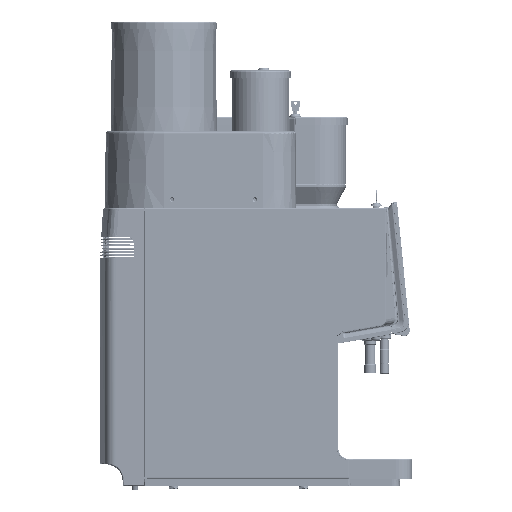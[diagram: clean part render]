
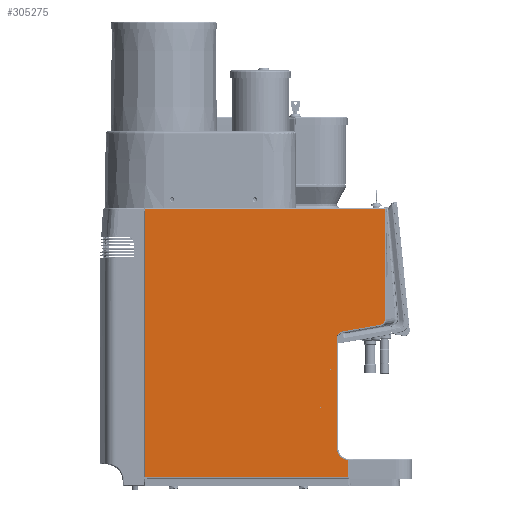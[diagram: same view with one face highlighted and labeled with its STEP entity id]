
A CAD part, left-side view. The second image highlights one B-rep face of the part: STEP entity #305275.
In plain terms, the highlighted planar face has unit normal (-1, 0, 0).
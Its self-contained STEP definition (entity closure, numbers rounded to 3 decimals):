
#22349=CIRCLE('',#341305,22.2);
#22351=CIRCLE('',#341309,12.1);
#22353=CIRCLE('',#341313,9.9);
#40462=ORIENTED_EDGE('',*,*,#136101,.F.);
#40463=ORIENTED_EDGE('',*,*,#136098,.T.);
#40464=ORIENTED_EDGE('',*,*,#136064,.T.);
#40465=ORIENTED_EDGE('',*,*,#136069,.T.);
#40466=ORIENTED_EDGE('',*,*,#136070,.T.);
#40467=ORIENTED_EDGE('',*,*,#136073,.T.);
#40468=ORIENTED_EDGE('',*,*,#136076,.T.);
#40469=ORIENTED_EDGE('',*,*,#136079,.T.);
#40470=ORIENTED_EDGE('',*,*,#136082,.T.);
#40471=ORIENTED_EDGE('',*,*,#136088,.T.);
#40472=ORIENTED_EDGE('',*,*,#136062,.T.);
#40473=ORIENTED_EDGE('',*,*,#136093,.F.);
#136062=EDGE_CURVE('',#183989,#183988,#213889,.T.);
#136064=EDGE_CURVE('',#183973,#183990,#213890,.T.);
#136069=EDGE_CURVE('',#183990,#183993,#213893,.T.);
#136070=EDGE_CURVE('',#183993,#183994,#22349,.T.);
#136073=EDGE_CURVE('',#183994,#183996,#213895,.T.);
#136076=EDGE_CURVE('',#183996,#183998,#22351,.T.);
#136079=EDGE_CURVE('',#183998,#184000,#213899,.T.);
#136082=EDGE_CURVE('',#184000,#184002,#22353,.T.);
#136088=EDGE_CURVE('',#184002,#183989,#213906,.T.);
#136093=EDGE_CURVE('',#183967,#183988,#213909,.T.);
#136098=EDGE_CURVE('',#184009,#183973,#213913,.T.);
#136101=EDGE_CURVE('',#184009,#183967,#213915,.T.);
#183967=VERTEX_POINT('',#454936);
#183973=VERTEX_POINT('',#454956);
#183988=VERTEX_POINT('',#455005);
#183989=VERTEX_POINT('',#455007);
#183990=VERTEX_POINT('',#455011);
#183993=VERTEX_POINT('',#455019);
#183994=VERTEX_POINT('',#455023);
#183996=VERTEX_POINT('',#455029);
#183998=VERTEX_POINT('',#455035);
#184000=VERTEX_POINT('',#455041);
#184002=VERTEX_POINT('',#455047);
#184009=VERTEX_POINT('',#455075);
#213889=LINE('',#455006,#235116);
#213890=LINE('',#455010,#235117);
#213893=LINE('',#455020,#235120);
#213895=LINE('',#455028,#235122);
#213899=LINE('',#455040,#235126);
#213906=LINE('',#455057,#235133);
#213909=LINE('',#455066,#235136);
#213913=LINE('',#455074,#235140);
#213915=LINE('',#455080,#235142);
#235116=VECTOR('',#372545,1000.);
#235117=VECTOR('',#372550,1000.);
#235120=VECTOR('',#372559,1000.);
#235122=VECTOR('',#372569,1000.);
#235126=VECTOR('',#372581,1000.);
#235133=VECTOR('',#372596,1000.);
#235136=VECTOR('',#372607,1000.);
#235140=VECTOR('',#372617,1000.);
#235142=VECTOR('',#372625,1000.);
#256192=EDGE_LOOP('',(#40462,#40463,#40464,#40465,#40466,#40467,#40468,
#40469,#40470,#40471,#40472,#40473));
#277249=FACE_BOUND('',#256192,.T.);
#298231=PLANE('',#341345);
#305275=ADVANCED_FACE('',(#277249),#298231,.F.);
#341305=AXIS2_PLACEMENT_3D('',#455022,#372562,#372563);
#341309=AXIS2_PLACEMENT_3D('',#455034,#372574,#372575);
#341313=AXIS2_PLACEMENT_3D('',#455046,#372586,#372587);
#341345=AXIS2_PLACEMENT_3D('',#455141,#372687,#372688);
#372545=DIRECTION('',(0.,1.,0.));
#372550=DIRECTION('',(0.,-1.,0.));
#372559=DIRECTION('',(0.,0.,1.));
#372562=DIRECTION('',(1.,0.,0.));
#372563=DIRECTION('',(0.,-1.,0.));
#372569=DIRECTION('',(0.,0.,1.));
#372574=DIRECTION('',(1.,0.,0.));
#372575=DIRECTION('',(0.,-1.,0.));
#372581=DIRECTION('',(0.,-0.985,0.174));
#372586=DIRECTION('',(-1.,0.,0.));
#372587=DIRECTION('',(0.,1.,0.));
#372596=DIRECTION('',(0.,0.,1.));
#372607=DIRECTION('',(0.,0.,1.));
#372617=DIRECTION('',(0.,-1.,0.));
#372625=DIRECTION('',(0.,0.,1.));
#372687=DIRECTION('',(1.,0.,0.));
#372688=DIRECTION('',(0.,1.,0.));
#454936=CARTESIAN_POINT('',(-162.5,403.99,523.748));
#454956=CARTESIAN_POINT('',(-162.5,400.99,20.));
#455005=CARTESIAN_POINT('',(-162.5,403.99,526.));
#455006=CARTESIAN_POINT('',(-162.5,-48.11,526.));
#455007=CARTESIAN_POINT('',(-162.5,-48.11,526.));
#455010=CARTESIAN_POINT('',(-162.5,403.99,20.));
#455011=CARTESIAN_POINT('',(-162.5,21.99,20.));
#455019=CARTESIAN_POINT('',(-162.5,21.99,52.909));
#455020=CARTESIAN_POINT('',(-162.5,21.99,52.909));
#455022=CARTESIAN_POINT('',(-162.5,19.79,75.));
#455023=CARTESIAN_POINT('',(-162.5,41.99,75.));
#455028=CARTESIAN_POINT('',(-162.5,41.99,283.68));
#455029=CARTESIAN_POINT('',(-162.5,41.99,283.68));
#455034=CARTESIAN_POINT('',(-162.5,29.89,283.68));
#455035=CARTESIAN_POINT('',(-162.5,31.991,295.596));
#455040=CARTESIAN_POINT('',(-162.5,-39.929,308.278));
#455041=CARTESIAN_POINT('',(-162.5,-39.929,308.278));
#455046=CARTESIAN_POINT('',(-162.5,-38.21,318.027));
#455047=CARTESIAN_POINT('',(-162.5,-48.11,318.027));
#455057=CARTESIAN_POINT('',(-162.5,-48.11,528.));
#455066=CARTESIAN_POINT('',(-162.5,403.99,526.));
#455074=CARTESIAN_POINT('',(-162.5,19.79,20.));
#455075=CARTESIAN_POINT('',(-162.5,403.99,20.));
#455080=CARTESIAN_POINT('',(-162.5,403.99,526.));
#455141=CARTESIAN_POINT('',(-162.5,19.79,75.));
